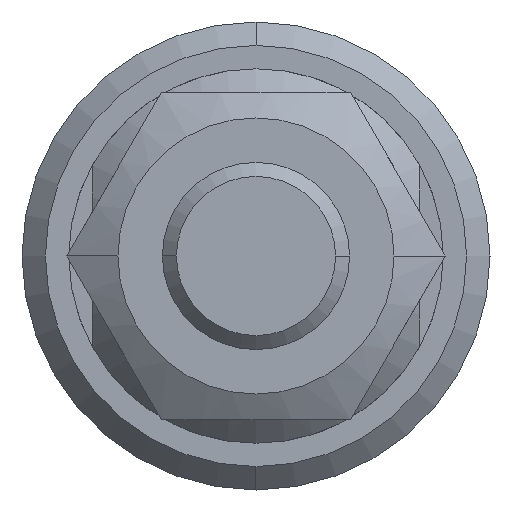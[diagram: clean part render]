
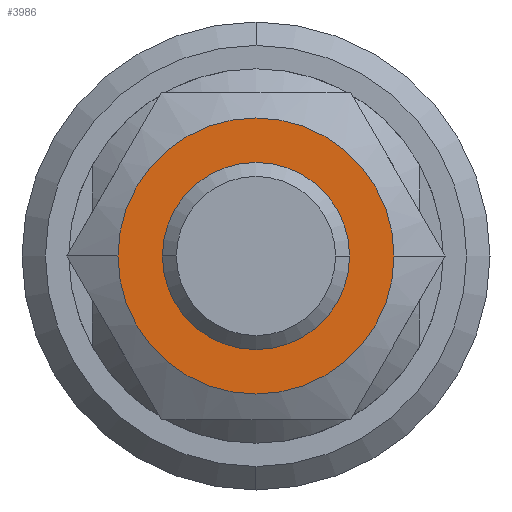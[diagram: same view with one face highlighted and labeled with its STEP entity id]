
A CAD part, left-side view. The second image highlights one B-rep face of the part: STEP entity #3986.
In plain terms, the highlighted planar face has unit normal (-1, 0, 0).
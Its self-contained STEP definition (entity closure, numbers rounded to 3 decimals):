
#2482=CARTESIAN_POINT('',(-48.,0.,0.));
#2483=DIRECTION('',(1.,0.,0.));
#2484=DIRECTION('',(0.,-1.,0.));
#2485=AXIS2_PLACEMENT_3D('',#2482,#2483,#2484);
#2565=CARTESIAN_POINT('',(-48.,0.,0.));
#2566=DIRECTION('',(1.,0.,0.));
#2567=DIRECTION('',(0.,-1.,0.));
#2568=AXIS2_PLACEMENT_3D('',#2565,#2566,#2567);
#2573=CARTESIAN_POINT('',(-48.,0.,0.));
#2574=DIRECTION('',(1.,0.,0.));
#2575=DIRECTION('',(0.,1.,0.));
#2576=AXIS2_PLACEMENT_3D('',#2573,#2574,#2575);
#2919=CARTESIAN_POINT('',(-48.,0.,0.));
#2920=DIRECTION('',(1.,0.,0.));
#2921=DIRECTION('',(0.,1.,0.));
#2922=AXIS2_PLACEMENT_3D('',#2919,#2920,#2921);
#3621=CARTESIAN_POINT('',(-48.,-2.95,0.));
#3622=CARTESIAN_POINT('',(-48.,2.95,0.));
#3623=VERTEX_POINT('',#3621);
#3624=VERTEX_POINT('',#3622);
#3673=CARTESIAN_POINT('',(-48.,-2.,0.));
#3674=CARTESIAN_POINT('',(-48.,2.,0.));
#3675=VERTEX_POINT('',#3673);
#3676=VERTEX_POINT('',#3674);
#3970=CARTESIAN_POINT('',(-48.,0.,0.));
#3971=DIRECTION('',(1.,0.,0.));
#3972=DIRECTION('',(0.,0.,-1.));
#3973=AXIS2_PLACEMENT_3D('',#3970,#3971,#3972);
#3974=PLANE('',#3973);
#3976=ORIENTED_EDGE('',*,*,#3975,.T.);
#3978=ORIENTED_EDGE('',*,*,#3977,.T.);
#3979=EDGE_LOOP('',(#3976,#3978));
#3980=FACE_OUTER_BOUND('',#3979,.F.);
#3981=ORIENTED_EDGE('',*,*,#3920,.F.);
#3983=ORIENTED_EDGE('',*,*,#3982,.F.);
#3984=EDGE_LOOP('',(#3981,#3983));
#3985=FACE_BOUND('',#3984,.F.);
#2486=CIRCLE('',#2485,2.);
#2569=CIRCLE('',#2568,2.95);
#2577=CIRCLE('',#2576,2.95);
#2923=CIRCLE('',#2922,2.);
#3920=EDGE_CURVE('',#3675,#3676,#2486,.T.);
#3975=EDGE_CURVE('',#3623,#3624,#2569,.T.);
#3977=EDGE_CURVE('',#3624,#3623,#2577,.T.);
#3982=EDGE_CURVE('',#3676,#3675,#2923,.T.);
#3986=ADVANCED_FACE('',(#3980,#3985),#3974,.F.);
